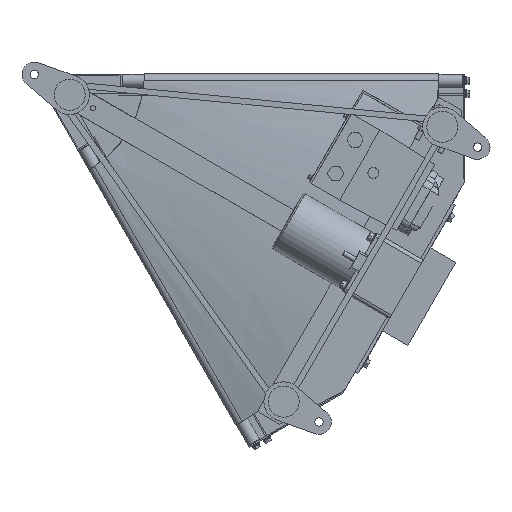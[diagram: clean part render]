
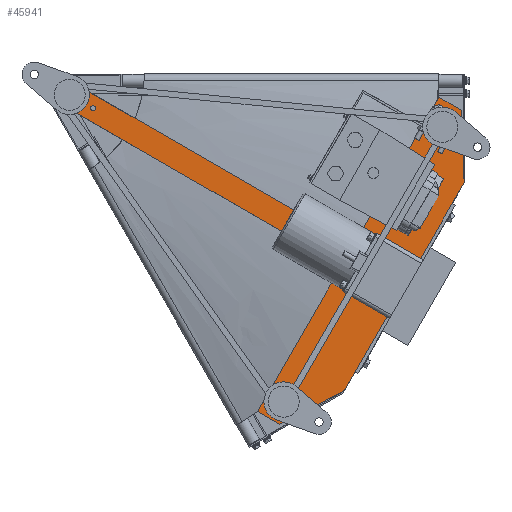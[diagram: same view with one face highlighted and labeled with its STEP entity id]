
A CAD part, front view. The second image highlights one B-rep face of the part: STEP entity #45941.
In plain terms, the highlighted planar face has unit normal (0, -1, 0).
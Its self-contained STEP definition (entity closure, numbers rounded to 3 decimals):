
#212 = LINE ( 'NONE', #2644, #14163 ) ;
#2116 = VECTOR ( 'NONE', #33109, 1000. ) ;
#2341 = CARTESIAN_POINT ( 'NONE',  ( 624.865, -167.5, -35.429 ) ) ;
#2644 = CARTESIAN_POINT ( 'NONE',  ( 624.865, -167.5, -35.429 ) ) ;
#3425 = EDGE_CURVE ( 'NONE', #10573, #19803, #12561, .T. ) ;
#3581 = FACE_OUTER_BOUND ( 'NONE', #23772, .T. ) ;
#3627 = CARTESIAN_POINT ( 'NONE',  ( 53.549, -167.5, -8.977 ) ) ;
#5063 = ORIENTED_EDGE ( 'NONE', *, *, #17779, .F. ) ;
#5377 = CARTESIAN_POINT ( 'NONE',  ( 478.967, -167.5, -488.131 ) ) ;
#6374 = EDGE_CURVE ( 'NONE', #21528, #12063, #20108, .T. ) ;
#7011 = CARTESIAN_POINT ( 'NONE',  ( 34.549, -167.5, -41.886 ) ) ;
#7052 = DIRECTION ( 'NONE',  ( 0.866, 0., -0.5 ) ) ;
#7111 = EDGE_CURVE ( 'NONE', #27420, #10573, #7866, .T. ) ;
#7866 = LINE ( 'NONE', #36716, #12786 ) ;
#8041 = DIRECTION ( 'NONE',  ( -0.139, 0., -0.99 ) ) ;
#8374 = VECTOR ( 'NONE', #36745, 1000. ) ;
#9479 = CARTESIAN_POINT ( 'NONE',  ( 344.865, -167.5, -520.403 ) ) ;
#10573 = VERTEX_POINT ( 'NONE', #33537 ) ;
#10692 = LINE ( 'NONE', #41666, #19814 ) ;
#10693 = VECTOR ( 'NONE', #12136, 1000. ) ;
#11815 = DIRECTION ( 'NONE',  ( 0., -1., 0. ) ) ;
#12063 = VERTEX_POINT ( 'NONE', #35685 ) ;
#12136 = DIRECTION ( 'NONE',  ( -0.866, 0., 0.5 ) ) ;
#12561 = LINE ( 'NONE', #31367, #10693 ) ;
#12786 = VECTOR ( 'NONE', #40613, 1000. ) ;
#13296 = DIRECTION ( 'NONE',  ( -0.866, 0., 0.5 ) ) ;
#13423 = VECTOR ( 'NONE', #29470, 1000. ) ;
#13711 = VECTOR ( 'NONE', #42396, 1000. ) ;
#14163 = VECTOR ( 'NONE', #7052, 1000. ) ;
#15010 = VERTEX_POINT ( 'NONE', #2341 ) ;
#15539 = LINE ( 'NONE', #3627, #13711 ) ;
#16390 = ORIENTED_EDGE ( 'NONE', *, *, #46812, .F. ) ;
#17252 = VECTOR ( 'NONE', #13296, 1000. ) ;
#17517 = ORIENTED_EDGE ( 'NONE', *, *, #3425, .F. ) ;
#17779 = EDGE_CURVE ( 'NONE', #43978, #19137, #15539, .T. ) ;
#18796 = ORIENTED_EDGE ( 'NONE', *, *, #38008, .F. ) ;
#19137 = VERTEX_POINT ( 'NONE', #50274 ) ;
#19748 = CARTESIAN_POINT ( 'NONE',  ( 379.506, -167.5, -540.403 ) ) ;
#19803 = VERTEX_POINT ( 'NONE', #7011 ) ;
#19814 = VECTOR ( 'NONE', #41491, 1000. ) ;
#20108 = LINE ( 'NONE', #33929, #13423 ) ;
#21528 = VERTEX_POINT ( 'NONE', #23337 ) ;
#21548 = VERTEX_POINT ( 'NONE', #19748 ) ;
#23337 = CARTESIAN_POINT ( 'NONE',  ( 659.506, -167.5, -55.429 ) ) ;
#23731 = VERTEX_POINT ( 'NONE', #31499 ) ;
#23772 = EDGE_LOOP ( 'NONE', ( #17517, #39128, #24148, #18796, #46468, #44312, #33008, #44112, #5063, #16390 ) ) ;
#24148 = ORIENTED_EDGE ( 'NONE', *, *, #49973, .F. ) ;
#25439 = VECTOR ( 'NONE', #26290, 1000. ) ;
#26002 = EDGE_CURVE ( 'NONE', #15010, #21528, #212, .T. ) ;
#26290 = DIRECTION ( 'NONE',  ( -0.885, 0., -0.465 ) ) ;
#27420 = VERTEX_POINT ( 'NONE', #35458 ) ;
#29470 = DIRECTION ( 'NONE',  ( 0.04, 0., -0.999 ) ) ;
#30329 = LINE ( 'NONE', #49086, #25439 ) ;
#31367 = CARTESIAN_POINT ( 'NONE',  ( 34.549, -167.5, -41.886 ) ) ;
#31499 = CARTESIAN_POINT ( 'NONE',  ( 478.967, -167.5, -488.131 ) ) ;
#32138 = LINE ( 'NONE', #9479, #8374 ) ;
#33008 = ORIENTED_EDGE ( 'NONE', *, *, #26002, .F. ) ;
#33109 = DIRECTION ( 'NONE',  ( -0.5, 0., -0.866 ) ) ;
#33266 = CARTESIAN_POINT ( 'NONE',  ( 53.549, -167.5, -8.977 ) ) ;
#33537 = CARTESIAN_POINT ( 'NONE',  ( 474.49, -167.5, -295.886 ) ) ;
#33753 = LINE ( 'NONE', #44286, #17252 ) ;
#33929 = CARTESIAN_POINT ( 'NONE',  ( 663.967, -167.5, -167.701 ) ) ;
#34983 = CARTESIAN_POINT ( 'NONE',  ( 6.377, -167.5, -3.682 ) ) ;
#35458 = CARTESIAN_POINT ( 'NONE',  ( 344.865, -167.5, -520.403 ) ) ;
#35685 = CARTESIAN_POINT ( 'NONE',  ( 663.967, -167.5, -167.701 ) ) ;
#35779 = EDGE_CURVE ( 'NONE', #19137, #15010, #32138, .T. ) ;
#36716 = CARTESIAN_POINT ( 'NONE',  ( 344.865, -167.5, -520.403 ) ) ;
#36745 = DIRECTION ( 'NONE',  ( 0.5, 0., 0.866 ) ) ;
#38008 = EDGE_CURVE ( 'NONE', #23731, #21548, #30329, .T. ) ;
#39128 = ORIENTED_EDGE ( 'NONE', *, *, #7111, .F. ) ;
#40613 = DIRECTION ( 'NONE',  ( 0.5, 0., 0.866 ) ) ;
#41491 = DIRECTION ( 'NONE',  ( 0.5, 0., 0.866 ) ) ;
#41666 = CARTESIAN_POINT ( 'NONE',  ( 34.549, -167.5, -41.886 ) ) ;
#42298 = PLANE ( 'NONE',  #45642 ) ;
#42396 = DIRECTION ( 'NONE',  ( 0.866, 0., -0.5 ) ) ;
#43530 = LINE ( 'NONE', #5377, #2116 ) ;
#43978 = VERTEX_POINT ( 'NONE', #33266 ) ;
#44112 = ORIENTED_EDGE ( 'NONE', *, *, #35779, .F. ) ;
#44286 = CARTESIAN_POINT ( 'NONE',  ( 344.865, -167.5, -520.403 ) ) ;
#44312 = ORIENTED_EDGE ( 'NONE', *, *, #6374, .F. ) ;
#45642 = AXIS2_PLACEMENT_3D ( 'NONE', #34983, #11815, #8041 ) ;
#45941 = ADVANCED_FACE ( 'NONE', ( #3581 ), #42298, .T. ) ;
#46468 = ORIENTED_EDGE ( 'NONE', *, *, #48168, .F. ) ;
#46812 = EDGE_CURVE ( 'NONE', #19803, #43978, #10692, .T. ) ;
#48168 = EDGE_CURVE ( 'NONE', #12063, #23731, #43530, .T. ) ;
#49086 = CARTESIAN_POINT ( 'NONE',  ( 379.506, -167.5, -540.403 ) ) ;
#49973 = EDGE_CURVE ( 'NONE', #21548, #27420, #33753, .T. ) ;
#50274 = CARTESIAN_POINT ( 'NONE',  ( 493.49, -167.5, -262.977 ) ) ;
